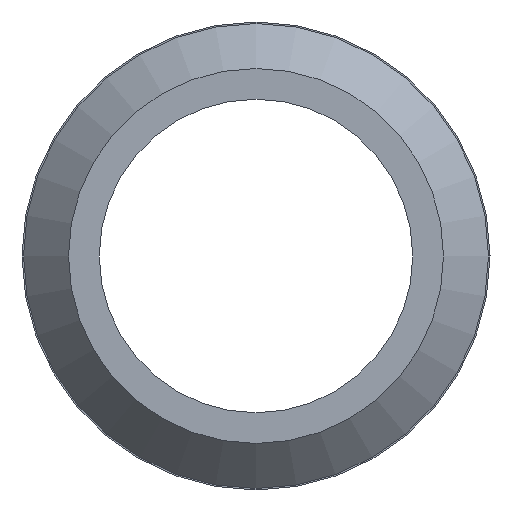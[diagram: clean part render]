
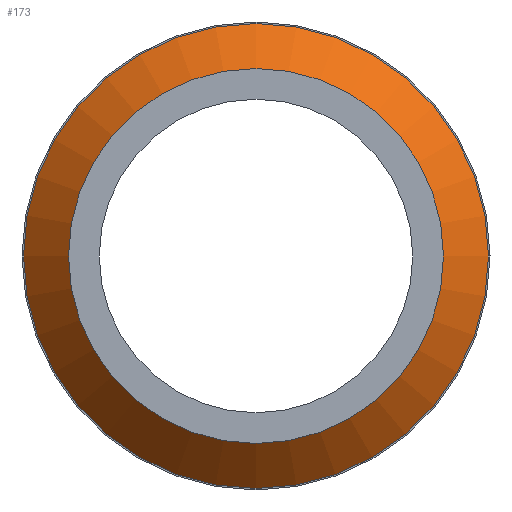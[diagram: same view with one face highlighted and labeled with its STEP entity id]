
A CAD part, front view. The second image highlights one B-rep face of the part: STEP entity #173.
In plain terms, the highlighted conical face has half-angle 45 degrees and reference radius 3.556 mm.
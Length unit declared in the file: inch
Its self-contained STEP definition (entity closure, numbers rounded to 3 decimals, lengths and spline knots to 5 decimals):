
#27=FACE_OUTER_BOUND('',#37,.T.);
#37=EDGE_LOOP('',(#123,#124,#125,#126,#127));
#51=LINE('',#294,#57);
#57=VECTOR('',#231,0.14);
#63=CIRCLE('',#198,0.125);
#64=CIRCLE('',#199,0.155);
#65=CIRCLE('',#200,0.155);
#81=VERTEX_POINT('',#291);
#82=VERTEX_POINT('',#293);
#83=VERTEX_POINT('',#295);
#99=EDGE_CURVE('',#81,#81,#63,.T.);
#100=EDGE_CURVE('',#81,#82,#51,.T.);
#101=EDGE_CURVE('',#82,#83,#64,.T.);
#102=EDGE_CURVE('',#83,#82,#65,.T.);
#123=ORIENTED_EDGE('',*,*,#99,.T.);
#124=ORIENTED_EDGE('',*,*,#100,.T.);
#125=ORIENTED_EDGE('',*,*,#101,.T.);
#126=ORIENTED_EDGE('',*,*,#102,.T.);
#127=ORIENTED_EDGE('',*,*,#100,.F.);
#171=CONICAL_SURFACE('',#197,0.14,0.785);
#173=ADVANCED_FACE('',(#27),#171,.T.);
#197=AXIS2_PLACEMENT_3D('',#290,#227,#228);
#198=AXIS2_PLACEMENT_3D('',#292,#229,#230);
#199=AXIS2_PLACEMENT_3D('',#296,#232,#233);
#200=AXIS2_PLACEMENT_3D('',#297,#234,#235);
#227=DIRECTION('center_axis',(0.,1.,0.));
#228=DIRECTION('ref_axis',(0.,0.,1.));
#229=DIRECTION('center_axis',(0.,1.,0.));
#230=DIRECTION('ref_axis',(0.,0.,1.));
#231=DIRECTION('',(0.,0.707,-0.707));
#232=DIRECTION('center_axis',(0.,-1.,0.));
#233=DIRECTION('ref_axis',(0.,0.,1.));
#234=DIRECTION('center_axis',(0.,-1.,0.));
#235=DIRECTION('ref_axis',(0.,0.,1.));
#290=CARTESIAN_POINT('Origin',(0.,0.015,0.));
#291=CARTESIAN_POINT('',(0.,0.,-0.125));
#292=CARTESIAN_POINT('Origin',(0.,0.,0.));
#293=CARTESIAN_POINT('',(0.,0.03,-0.155));
#294=CARTESIAN_POINT('',(0.,0.015,-0.14));
#295=CARTESIAN_POINT('',(0.,0.03,0.155));
#296=CARTESIAN_POINT('Origin',(0.,0.03,0.));
#297=CARTESIAN_POINT('Origin',(0.,0.03,0.));
